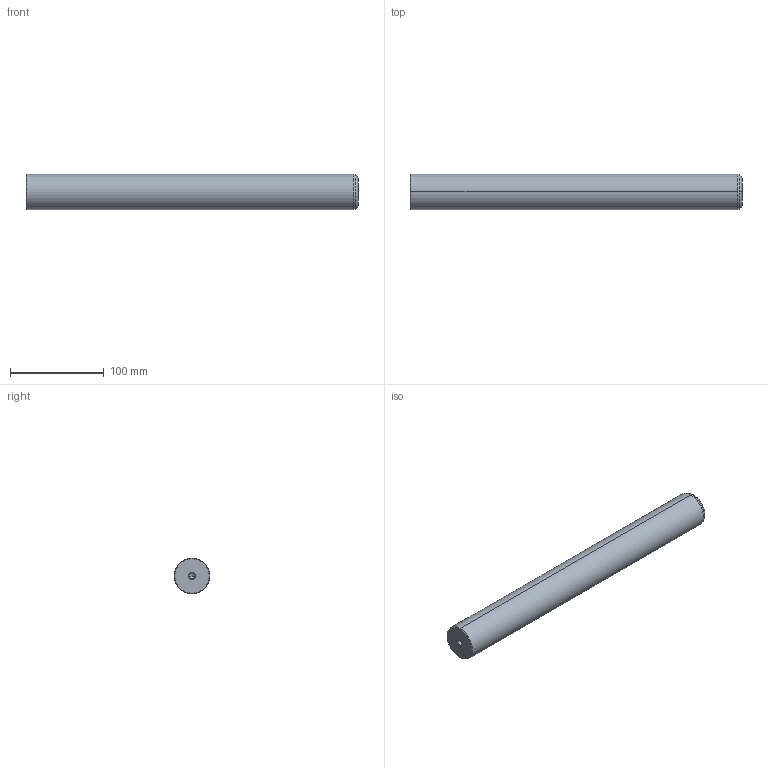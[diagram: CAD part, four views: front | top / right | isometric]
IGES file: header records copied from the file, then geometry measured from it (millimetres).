
Start section: START RECORD GO HERE.
Global section: file name: 720-38x355.igs; native system: DASSAULT SYSTEMES CATIA V5 R20 - www.3ds.com; preprocessor: CATIA Version 5 Release 20 ; author: Utente; organization: NB04-ASUS; date: 20210101.130229; units: millimetre
Bounding box: 355 x 38 x 38 mm (x, y, z)
Surface area: 45334.8 mm2 (no closed solid volume)
Topology: 0 solids, 0 shells, 22 faces, 120 edges, 116 vertices
Faces by surface type: revolution 20, plane 2
